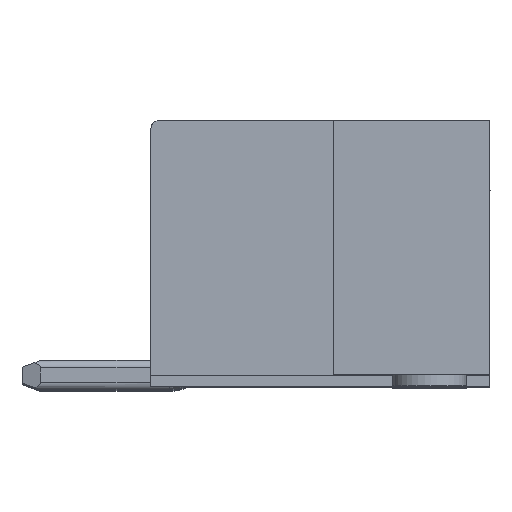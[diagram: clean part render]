
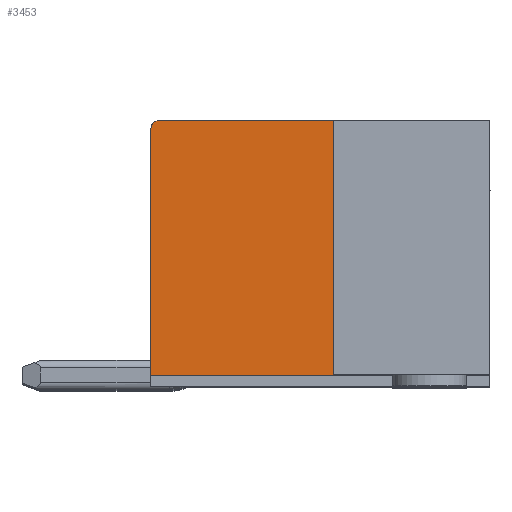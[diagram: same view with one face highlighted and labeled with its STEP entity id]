
A CAD part, top view. The second image highlights one B-rep face of the part: STEP entity #3453.
In plain terms, the highlighted planar face has unit normal (0, 0, 1).
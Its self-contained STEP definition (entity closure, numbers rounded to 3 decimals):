
#779 = EDGE_CURVE ( 'NONE', #17038, #23717, #35689, .T. ) ;
#1177 = CARTESIAN_POINT ( 'NONE',  ( -9.055, 7.2, -3.7 ) ) ;
#2597 = EDGE_CURVE ( 'NONE', #11538, #7116, #26222, .T. ) ;
#3453 = ADVANCED_FACE ( 'NONE', ( #34197 ), #32062, .T. ) ;
#4694 = DIRECTION ( 'NONE',  ( 0., 0., 1. ) ) ;
#4914 = VECTOR ( 'NONE', #5607, 1000. ) ;
#5607 = DIRECTION ( 'NONE',  ( 1., 0., 0. ) ) ;
#5711 = EDGE_CURVE ( 'NONE', #23717, #7116, #35147, .T. ) ;
#5897 = EDGE_CURVE ( 'NONE', #13959, #11538, #32051, .T. ) ;
#7072 = DIRECTION ( 'NONE',  ( 1., 0., 0. ) ) ;
#7116 = VERTEX_POINT ( 'NONE', #27466 ) ;
#7558 = B_SPLINE_CURVE_WITH_KNOTS ( 'NONE', 3,
 ( #21024, #1177, #27087, #26744, #21135, #15825 ),
 .UNSPECIFIED., .F., .F.,
 ( 4, 2, 4 ),
 ( 0., 0.5, 1. ),
 .UNSPECIFIED. ) ;
#11538 = VERTEX_POINT ( 'NONE', #21619 ) ;
#13959 = VERTEX_POINT ( 'NONE', #15674 ) ;
#14626 = DIRECTION ( 'NONE',  ( 0., -1., 0. ) ) ;
#15674 = CARTESIAN_POINT ( 'NONE',  ( -9., 7.2, -3.7 ) ) ;
#15825 = CARTESIAN_POINT ( 'NONE',  ( -9.2, 7., -3.7 ) ) ;
#16130 = DIRECTION ( 'NONE',  ( 0., 1., 0. ) ) ;
#17038 = VERTEX_POINT ( 'NONE', #19442 ) ;
#17840 = CARTESIAN_POINT ( 'NONE',  ( -9.2, 7.2, -3.7 ) ) ;
#19442 = CARTESIAN_POINT ( 'NONE',  ( -9.2, 7., -3.7 ) ) ;
#19592 = ORIENTED_EDGE ( 'NONE', *, *, #5897, .F. ) ;
#19876 = ORIENTED_EDGE ( 'NONE', *, *, #2597, .F. ) ;
#21024 = CARTESIAN_POINT ( 'NONE',  ( -9., 7.2, -3.7 ) ) ;
#21135 = CARTESIAN_POINT ( 'NONE',  ( -9.2, 7.056, -3.7 ) ) ;
#21619 = CARTESIAN_POINT ( 'NONE',  ( -4.25, 7.2, -3.7 ) ) ;
#21873 = VECTOR ( 'NONE', #14626, 1000. ) ;
#22079 = EDGE_LOOP ( 'NONE', ( #32004, #19876, #19592, #30833, #27744 ) ) ;
#23717 = VERTEX_POINT ( 'NONE', #32354 ) ;
#23768 = EDGE_CURVE ( 'NONE', #13959, #17038, #7558, .T. ) ;
#25602 = CARTESIAN_POINT ( 'NONE',  ( -9.2, 0.3, -3.7 ) ) ;
#25836 = CARTESIAN_POINT ( 'NONE',  ( -9.2, 7.2, -3.7 ) ) ;
#26222 = LINE ( 'NONE', #33794, #32466 ) ;
#26663 = AXIS2_PLACEMENT_3D ( 'NONE', #25836, #4694, #16130 ) ;
#26744 = CARTESIAN_POINT ( 'NONE',  ( -9.18, 7.103, -3.7 ) ) ;
#27087 = CARTESIAN_POINT ( 'NONE',  ( -9.103, 7.18, -3.7 ) ) ;
#27466 = CARTESIAN_POINT ( 'NONE',  ( -4.25, 0.3, -3.7 ) ) ;
#27744 = ORIENTED_EDGE ( 'NONE', *, *, #779, .T. ) ;
#30709 = VECTOR ( 'NONE', #7072, 1000. ) ;
#30833 = ORIENTED_EDGE ( 'NONE', *, *, #23768, .T. ) ;
#31422 = DIRECTION ( 'NONE',  ( 0., -1., 0. ) ) ;
#31590 = CARTESIAN_POINT ( 'NONE',  ( -9.2, 7.2, -3.7 ) ) ;
#32004 = ORIENTED_EDGE ( 'NONE', *, *, #5711, .T. ) ;
#32051 = LINE ( 'NONE', #31590, #30709 ) ;
#32062 = PLANE ( 'NONE',  #26663 ) ;
#32354 = CARTESIAN_POINT ( 'NONE',  ( -9.2, 0.3, -3.7 ) ) ;
#32466 = VECTOR ( 'NONE', #31422, 1000. ) ;
#33794 = CARTESIAN_POINT ( 'NONE',  ( -4.25, 0.3, -3.7 ) ) ;
#34197 = FACE_OUTER_BOUND ( 'NONE', #22079, .T. ) ;
#35147 = LINE ( 'NONE', #25602, #4914 ) ;
#35689 = LINE ( 'NONE', #17840, #21873 ) ;
